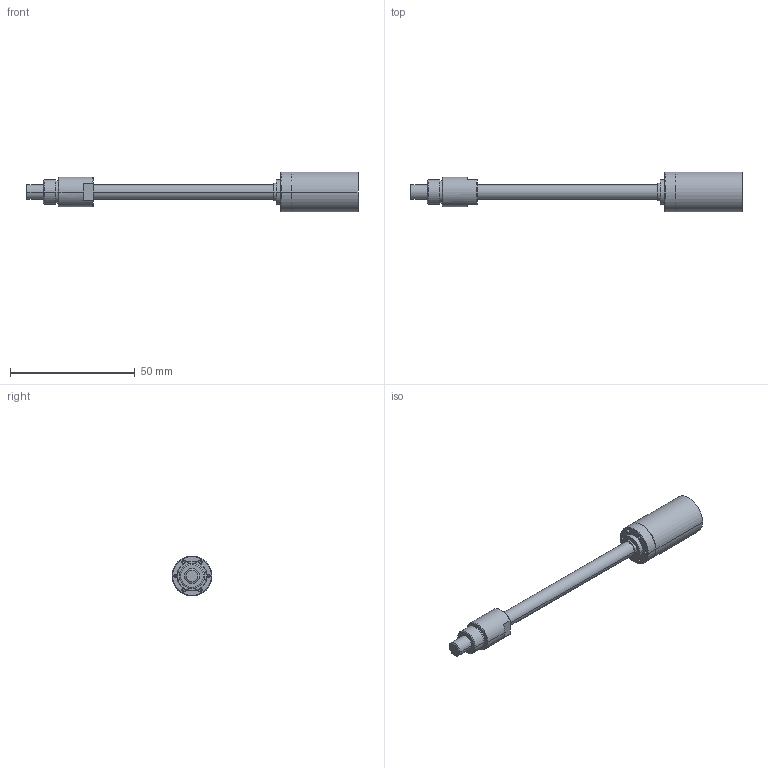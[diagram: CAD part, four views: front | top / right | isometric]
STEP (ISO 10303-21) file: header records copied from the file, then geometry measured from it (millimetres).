
FILE_DESCRIPTION((''),'2;1');
FILE_NAME('424234_GP16S_M-3ST','2016-10-05T',('mmagpetk'),(''),'CREO PARAMETRIC BY PTC INC, 2016050','CREO PARAMETRIC BY PTC INC, 2016050','');
FILE_SCHEMA(('CONFIG_CONTROL_DESIGN'));
Length unit declared in the file: millimetre
Products named in the file (1): 424234_GP16S_M-3ST
Bounding box: 133 x 16 x 16 mm (x, y, z)
Volume: 10170.4 mm3; surface area: 5069 mm2
Topology: 1 solids, 1 shells, 95 faces, 206 edges, 122 vertices
Faces by surface type: cylinder 44, cone 28, plane 21, torus 2
Entity records: 4360 total; most frequent: CARTESIAN_POINT 523, DIRECTION 484, ORIENTED_EDGE 388, PRESENTATION_STYLE_ASSIGNMENT 282, AXIS2_PLACEMENT_3D 203, STYLED_ITEM 195, CURVE_STYLE 194, EDGE_CURVE 194
